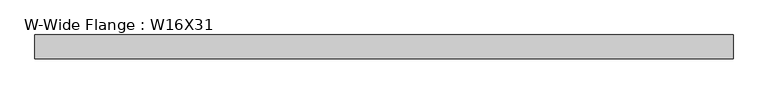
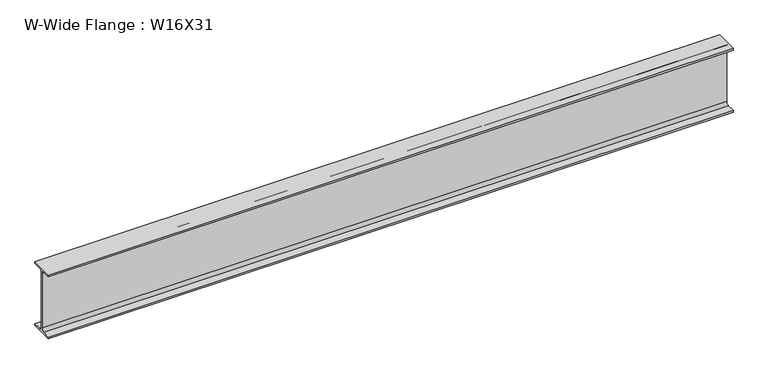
"""IFC4 building model written with IfcOpenShell, lengths in millimetres: beam geometry, W-Wide Flange : W16X31."""

from ifc_helpers import new_model, si_unit, point, frame, frame_2d, origin, place, context, project, spatial, polyline, circle_curve, trimmed, segment, composite_curve, outline, extrude, source, transform, mapped, element, save


def w_wide_flange_w16x31_034e3d4c(model_context):
    return source(origin(), model_context, "Body", "SweptSolid", [
        extrude(outline(composite_curve([segment(polyline([(70.231, -190.754), (70.231, -201.93), (-70.231, -201.93), (-70.231, -190.754), (-20.8915, -190.754)]), True, "CONTINUOUS"), segment(trimmed(circle_curve(frame_2d((-20.8915, -173.355)), 17.399), [point((-20.8915, -190.754))], [point((-3.4925, -173.355))], True, "CARTESIAN"), True, "CONTINUOUS"), segment(polyline([(-3.4925, -173.355), (-3.4925, 173.355)]), True, "CONTINUOUS"), segment(trimmed(circle_curve(frame_2d((-20.8915, 173.355)), 17.399), [point((-3.4925, 173.355))], [point((-20.8915, 190.754))], True, "CARTESIAN"), True, "CONTINUOUS"), segment(polyline([(-20.8915, 190.754), (-70.231, 190.754), (-70.231, 201.93), (70.231, 201.93), (70.231, 190.754), (20.8915, 190.754)]), True, "CONTINUOUS"), segment(trimmed(circle_curve(frame_2d((20.8915, 173.355)), 17.399), [point((20.8915, 190.754))], [point((3.4925, 173.355))], True, "CARTESIAN"), True, "CONTINUOUS"), segment(polyline([(3.4925, 173.355), (3.4925, -173.355)]), True, "CONTINUOUS"), segment(trimmed(circle_curve(frame_2d((20.8915, -173.355)), 17.399), [point((3.4925, -173.355))], [point((20.8915, -190.754))], True, "CARTESIAN"), True, "CONTINUOUS"), segment(polyline([(20.8915, -190.754), (70.231, -190.754)]), True, "CONTINUOUS")], self_intersect=False)), frame((-2052.124346, 0.0, 0.0), z_axis=(1.0, 0.0, 0.0), x_axis=(0.0, 1.0, 0.0)), (0.0, 0.0, 1.0), 4104.248692),
    ])


if __name__ == "__main__":
    model = new_model("IFC4")
    model_context = context("Model", 3, world=origin())
    ifc_project = project(units=[si_unit("LENGTHUNIT", "METRE", prefix="MILLI")], contexts=[model_context])
    site = spatial("IfcSite", under=ifc_project)
    building = spatial("IfcBuilding", under=site)
    placement = place(None, origin())
    w_wide_flange_w16x31_shape = w_wide_flange_w16x31_034e3d4c(model_context)
    element("IfcBeam", 1, ObjectType="W-Wide Flange : W16X31", at=placement, inside=building, context=model_context, shape_type="MappedRepresentation", body=[
        mapped(w_wide_flange_w16x31_shape, transform((0.0, 0.0, 0.0), x_axis=(1.0, 0.0, 0.0), y_axis=(0.0, 1.0, 0.0), z_axis=(0.0, 0.0, 1.0))),
    ])
    save(model, "model.ifc")
